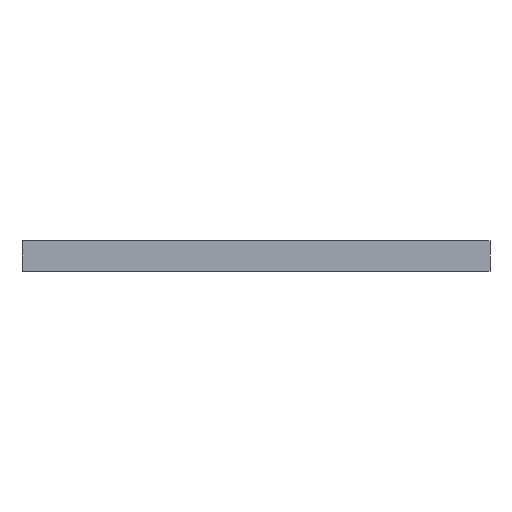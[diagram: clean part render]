
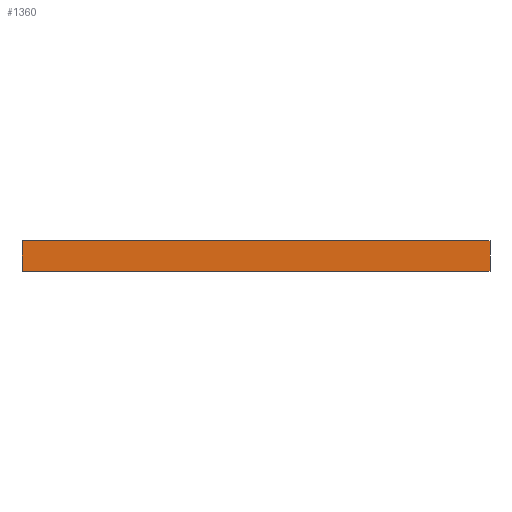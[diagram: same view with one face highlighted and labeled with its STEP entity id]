
A CAD part, front view. The second image highlights one B-rep face of the part: STEP entity #1360.
In plain terms, the highlighted planar face has unit normal (0, -1, 0).
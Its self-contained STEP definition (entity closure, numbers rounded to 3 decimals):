
#72 = PLANE('',#73);
#73 = AXIS2_PLACEMENT_3D('',#74,#75,#76);
#74 = CARTESIAN_POINT('',(241.469,67.474,11.9));
#75 = DIRECTION('',(-0.,-0.,-1.));
#76 = DIRECTION('',(-1.,0.,0.));
#126 = PLANE('',#127);
#127 = AXIS2_PLACEMENT_3D('',#128,#129,#130);
#128 = CARTESIAN_POINT('',(241.469,67.474,0.));
#129 = DIRECTION('',(-0.,-0.,-1.));
#130 = DIRECTION('',(-1.,0.,0.));
#354 = VERTEX_POINT('',#355);
#355 = CARTESIAN_POINT('',(331.713,19.05,11.9));
#369 = PLANE('',#370);
#370 = AXIS2_PLACEMENT_3D('',#371,#372,#373);
#371 = CARTESIAN_POINT('',(331.713,118.2,0.));
#372 = DIRECTION('',(1.,0.,-0.));
#373 = DIRECTION('',(0.,-1.,0.));
#381 = EDGE_CURVE('',#354,#382,#384,.T.);
#382 = VERTEX_POINT('',#383);
#383 = CARTESIAN_POINT('',(151.713,19.05,11.9));
#384 = SURFACE_CURVE('',#385,(#389,#396),.PCURVE_S1.);
#385 = LINE('',#386,#387);
#386 = CARTESIAN_POINT('',(331.713,19.05,11.9));
#387 = VECTOR('',#388,1.);
#388 = DIRECTION('',(-1.,0.,0.));
#389 = PCURVE('',#72,#390);
#390 = DEFINITIONAL_REPRESENTATION('',(#391),#395);
#391 = LINE('',#392,#393);
#392 = CARTESIAN_POINT('',(-90.244,-48.424));
#393 = VECTOR('',#394,1.);
#394 = DIRECTION('',(1.,0.));
#395 = ( GEOMETRIC_REPRESENTATION_CONTEXT(2) 
PARAMETRIC_REPRESENTATION_CONTEXT() REPRESENTATION_CONTEXT('2D SPACE',''
  ) );
#396 = PCURVE('',#397,#402);
#397 = PLANE('',#398);
#398 = AXIS2_PLACEMENT_3D('',#399,#400,#401);
#399 = CARTESIAN_POINT('',(331.713,19.05,0.));
#400 = DIRECTION('',(0.,-1.,0.));
#401 = DIRECTION('',(-1.,0.,0.));
#402 = DEFINITIONAL_REPRESENTATION('',(#403),#407);
#403 = LINE('',#404,#405);
#404 = CARTESIAN_POINT('',(0.,-11.9));
#405 = VECTOR('',#406,1.);
#406 = DIRECTION('',(1.,0.));
#407 = ( GEOMETRIC_REPRESENTATION_CONTEXT(2) 
PARAMETRIC_REPRESENTATION_CONTEXT() REPRESENTATION_CONTEXT('2D SPACE',''
  ) );
#425 = PLANE('',#426);
#426 = AXIS2_PLACEMENT_3D('',#427,#428,#429);
#427 = CARTESIAN_POINT('',(151.713,19.05,0.));
#428 = DIRECTION('',(-1.,0.,0.));
#429 = DIRECTION('',(0.,1.,0.));
#972 = VERTEX_POINT('',#973);
#973 = CARTESIAN_POINT('',(331.713,19.05,0.));
#994 = EDGE_CURVE('',#972,#995,#997,.T.);
#995 = VERTEX_POINT('',#996);
#996 = CARTESIAN_POINT('',(151.713,19.05,0.));
#997 = SURFACE_CURVE('',#998,(#1002,#1009),.PCURVE_S1.);
#998 = LINE('',#999,#1000);
#999 = CARTESIAN_POINT('',(331.713,19.05,0.));
#1000 = VECTOR('',#1001,1.);
#1001 = DIRECTION('',(-1.,0.,0.));
#1002 = PCURVE('',#126,#1003);
#1003 = DEFINITIONAL_REPRESENTATION('',(#1004),#1008);
#1004 = LINE('',#1005,#1006);
#1005 = CARTESIAN_POINT('',(-90.244,-48.424));
#1006 = VECTOR('',#1007,1.);
#1007 = DIRECTION('',(1.,0.));
#1008 = ( GEOMETRIC_REPRESENTATION_CONTEXT(2) 
PARAMETRIC_REPRESENTATION_CONTEXT() REPRESENTATION_CONTEXT('2D SPACE',''
  ) );
#1009 = PCURVE('',#397,#1010);
#1010 = DEFINITIONAL_REPRESENTATION('',(#1011),#1015);
#1011 = LINE('',#1012,#1013);
#1012 = CARTESIAN_POINT('',(0.,-0.));
#1013 = VECTOR('',#1014,1.);
#1014 = DIRECTION('',(1.,0.));
#1015 = ( GEOMETRIC_REPRESENTATION_CONTEXT(2) 
PARAMETRIC_REPRESENTATION_CONTEXT() REPRESENTATION_CONTEXT('2D SPACE',''
  ) );
#1339 = EDGE_CURVE('',#972,#354,#1340,.T.);
#1340 = SURFACE_CURVE('',#1341,(#1345,#1352),.PCURVE_S1.);
#1341 = LINE('',#1342,#1343);
#1342 = CARTESIAN_POINT('',(331.713,19.05,0.));
#1343 = VECTOR('',#1344,1.);
#1344 = DIRECTION('',(0.,0.,1.));
#1345 = PCURVE('',#369,#1346);
#1346 = DEFINITIONAL_REPRESENTATION('',(#1347),#1351);
#1347 = LINE('',#1348,#1349);
#1348 = CARTESIAN_POINT('',(99.15,0.));
#1349 = VECTOR('',#1350,1.);
#1350 = DIRECTION('',(0.,-1.));
#1351 = ( GEOMETRIC_REPRESENTATION_CONTEXT(2) 
PARAMETRIC_REPRESENTATION_CONTEXT() REPRESENTATION_CONTEXT('2D SPACE',''
  ) );
#1352 = PCURVE('',#397,#1353);
#1353 = DEFINITIONAL_REPRESENTATION('',(#1354),#1358);
#1354 = LINE('',#1355,#1356);
#1355 = CARTESIAN_POINT('',(0.,-0.));
#1356 = VECTOR('',#1357,1.);
#1357 = DIRECTION('',(0.,-1.));
#1358 = ( GEOMETRIC_REPRESENTATION_CONTEXT(2) 
PARAMETRIC_REPRESENTATION_CONTEXT() REPRESENTATION_CONTEXT('2D SPACE',''
  ) );
#1360 = ADVANCED_FACE('',(#1361),#397,.T.);
#1361 = FACE_BOUND('',#1362,.T.);
#1362 = EDGE_LOOP('',(#1363,#1364,#1365,#1386));
#1363 = ORIENTED_EDGE('',*,*,#1339,.T.);
#1364 = ORIENTED_EDGE('',*,*,#381,.T.);
#1365 = ORIENTED_EDGE('',*,*,#1366,.F.);
#1366 = EDGE_CURVE('',#995,#382,#1367,.T.);
#1367 = SURFACE_CURVE('',#1368,(#1372,#1379),.PCURVE_S1.);
#1368 = LINE('',#1369,#1370);
#1369 = CARTESIAN_POINT('',(151.713,19.05,0.));
#1370 = VECTOR('',#1371,1.);
#1371 = DIRECTION('',(0.,0.,1.));
#1372 = PCURVE('',#397,#1373);
#1373 = DEFINITIONAL_REPRESENTATION('',(#1374),#1378);
#1374 = LINE('',#1375,#1376);
#1375 = CARTESIAN_POINT('',(180.,0.));
#1376 = VECTOR('',#1377,1.);
#1377 = DIRECTION('',(0.,-1.));
#1378 = ( GEOMETRIC_REPRESENTATION_CONTEXT(2) 
PARAMETRIC_REPRESENTATION_CONTEXT() REPRESENTATION_CONTEXT('2D SPACE',''
  ) );
#1379 = PCURVE('',#425,#1380);
#1380 = DEFINITIONAL_REPRESENTATION('',(#1381),#1385);
#1381 = LINE('',#1382,#1383);
#1382 = CARTESIAN_POINT('',(0.,0.));
#1383 = VECTOR('',#1384,1.);
#1384 = DIRECTION('',(0.,-1.));
#1385 = ( GEOMETRIC_REPRESENTATION_CONTEXT(2) 
PARAMETRIC_REPRESENTATION_CONTEXT() REPRESENTATION_CONTEXT('2D SPACE',''
  ) );
#1386 = ORIENTED_EDGE('',*,*,#994,.F.);
